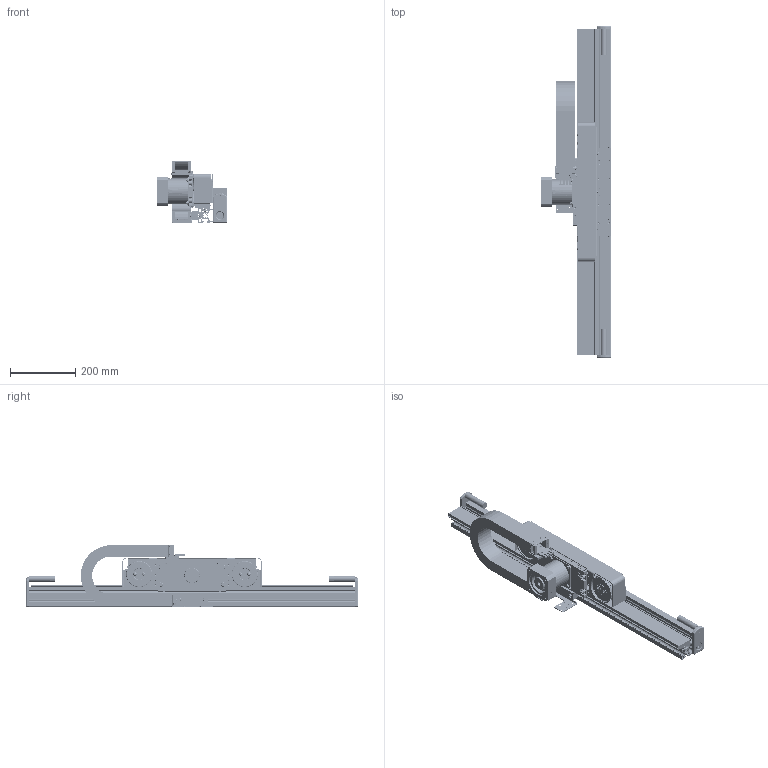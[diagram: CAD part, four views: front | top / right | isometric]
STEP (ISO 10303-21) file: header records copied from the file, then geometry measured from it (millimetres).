
FILE_DESCRIPTION( ( '' ), ' ' );
FILE_NAME( '/vol/tmp/translate-7701423585239253917/5c7eaf618114d5171430b057.step', '2019-03-05T17:18:26', ( '' ), ( '' ), ' ', ' ', ' ' );
FILE_SCHEMA( ( 'AUTOMOTIVE_DESIGN { 1 0 10303 214 1 1 1 1 }' ) );
Length unit declared in the file: metre
Products named in the file (95): FASTENERS <2>; 102811-002 M6 T-NUT; 100001-073 M6 X 12 SS SHCS; RAIL FASTENERS <16>; 102684-001 BOSCH 10mm T-BLOCK M5; 20mm BEARING RAIL CAP; 100001-8065 M5-.80 X 25 ALLOY SHCS; RAIL FASTENERS <6>; RAIL FASTENERS <11>; RAIL FASTENERS <15>; RAIL FASTENERS <9>; RAIL FASTENERS <17>; FASTENERS <4>; RAIL FASTENERS <1>; RAIL FASTENERS <13>; FASTENERS <1>; FASTENERS <5>; RAIL FASTENERS <2>; RAIL FASTENERS <10>; RAIL FASTENERS <3>; RAIL FASTENERS <14>; RAIL FASTENERS <8>; RAIL FASTENERS <7>; RAIL FASTENERS <12>; FASTENERS <3>; RAIL FASTENERS <4>; RAIL FASTENERS <5>; PLQE080-005-TEKNIC34 & PINION <1>; PLQE080-005-TEKNIC34; 100013-079 M5 X 10 SS SET SCREW; 103795-008 SBL-H PINION 20mm BORE 6mm KEY LOCK; IGUS E6-29-040 END BRACKET (1) <1>; iguse6-29-040-1; iguse6-29-040-3(Default); iguse6-29-040-2; iguse6-29-040-4(Default); RAIL <1>; 102732-990 20mm STANDARD GUIDE RAIL; 106888-001 20mm RAIL COVER; TRAY <1>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
Assembly tree (220 placements, depth 5):
  Assem1
    E6-29-40 LINKS
    PLQE080-005-TEKNIC34 MOUNT <1>
      100011-8047 M6-1.0 X 20 ALLOY FHCS  x4
      100003-006 M8 SS F/W  x4
      100001-086 M8-1.25 X 20 SS SHCS  x4
      100007-001 M6 SS HEX NUT  x4
      105326-006 SBL-H NEUGART GEARBOX MOTOR MOUNT PLATE
      100013-072 M6 X 12 SS SET SCREW  x2
      PLQE080-005-TEKNIC34 & PINION <1>
        PLQE080-005-TEKNIC34
        100013-079 M5 X 10 SS SET SCREW  x2
        103795-008 SBL-H PINION 20mm BORE 6mm KEY LOCK
    107160-001 SBL-H-LT DRIVE BLOCK WITH COVER <1>
      100001-158 M10-1.5 X 30 SS SHCS  x2
      100003-049 M6 SS FENDER WASHER  x4
      100001-090 M8-1.25 X 60 SS SHCS  x2
      100006-028 M6-1.0 X 12 SS BHCS  x4
      105768-001 SBL-H LOOPTRACK BELT COVER
      100013-014 M6 X 6 SS SET SCREW  x2
      100002-050 M5-.80 X 8mm SS FH X-RECESS SCREW  x4
      102638-006 5206ZZ SHIELDED DOUBLE ROW BALL BEARING  x4
      100021-064 35 X 80 X 21 BEARING 6307ZZ  x4
      104257-002 SBL-H CARRIAGE PIN  x2
      105457-001 MODIFIED M20 FLAT HEAD SCREW  x2
      102653-005 BRG SPACER, 30mm X 36mm X .070  x4
      105344-990 T10 ENDLESS BELT 50mm WIDE
      100081-220 0.139 W X 1.359 ID BUN-N O-RING  x4
      105323-001 KEY 4mm SQUARE X 16mm LONG
      105652-001 SBL-H-LT DRIVE MOUNT
    LEFT <1>
      100011-XXX M6-1.0 X 14 SS FHCS  x2
      104453-update SBL-H UPPER E-CHAIN BRACKET(Default)
      100001-074 M6-1.0 X 16 SS  SHCS
      100006-028 M6-1.0 X 12 SS BHCS
      100001-052 M4-.70 X 12 SS SHCS  x2
      103862 IGUS 2030-ZB TIE WRAP PLATE
      IGUS E6-29-040 END BRACKET (1) <1>
        iguse6-29-040-1
        iguse6-29-040-3(Default)
        iguse6-29-040-2
        iguse6-29-040-4(Default)
    1000 CHASSIS <1>
      102576-1000 45-SERIES PROFILE 45X90H
      RAIL <1>
        102732-990 20mm STANDARD GUIDE RAIL
        106888-001 20mm RAIL COVER
        RAIL FASTENERS <7>
          102684-001 BOSCH 10mm T-BLOCK M5
          20mm BEARING RAIL CAP
          100001-8065 M5-.80 X 25 ALLOY SHCS
        RAIL FASTENERS <13>
          102684-001 BOSCH 10mm T-BLOCK M5
          100001-8065 M5-.80 X 25 ALLOY SHCS
          20mm BEARING RAIL CAP
        RAIL FASTENERS <9>
          100001-8065 M5-.80 X 25 ALLOY SHCS
          20mm BEARING RAIL CAP
          102684-001 BOSCH 10mm T-BLOCK M5
        RAIL FASTENERS <14>
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Bounding box: 216.12 x 1019.05 x 189.79 mm (x, y, z)
Volume: 6152228.2 mm3; surface area: 2582735.9 mm2
Topology: 185 solids, 186 shells, 5090 faces, 13097 edges, 8621 vertices
Faces by surface type: plane 3153, cylinder 1513, cone 304, torus 103, sphere 13, bspline 4
Full cylindrical faces by diameter (mm): 2.5 x16, 2.54 x2, 2.6 x4, 2.66 x4, 3.3 x2, 3.6 x2, 3.988 x6, 4 x4, 4.2 x12, 4.216 x16, 4.5 x14, 5 x59, 5.004 x31, 5.1 x1, 5.105 x4, 5.5 x19, 5.8 x8, 5.867 x2, 5.994 x15, 6 x34, 6.2 x4, 6.4 x5, 6.5 x6, 6.6 x5, 6.8 x2, 6.858 x2, 7 x10, 7.112 x5, 7.5 x8, 7.74 x4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
Entity records: 116447 total; most frequent: CARTESIAN_POINT 18316, DIRECTION 15676, ORIENTED_EDGE 14566, EDGE_CURVE 7283, AXIS2_PLACEMENT_3D 5378, VERTEX_POINT 5095, LINE 4920, VECTOR 4920
